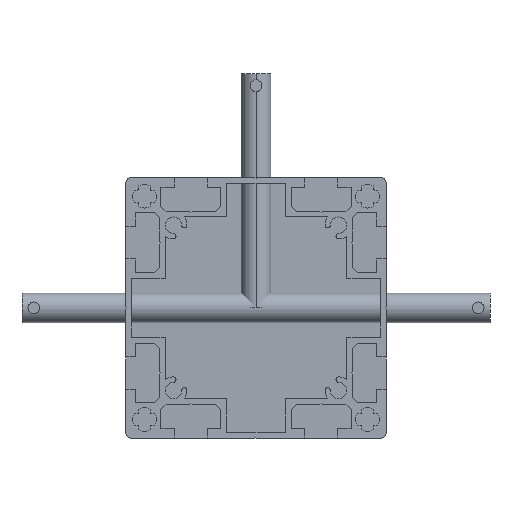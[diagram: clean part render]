
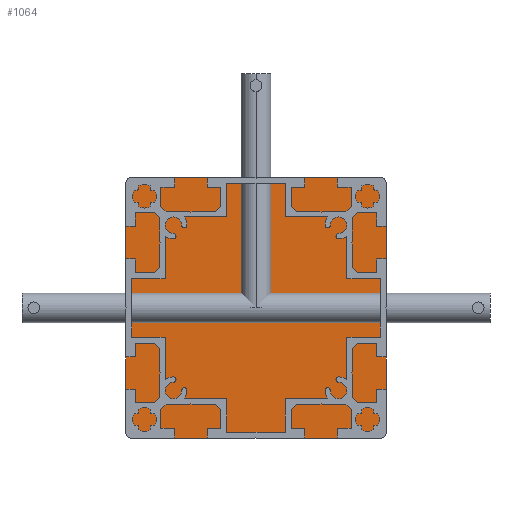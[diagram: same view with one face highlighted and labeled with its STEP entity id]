
A CAD part, left-side view. The second image highlights one B-rep face of the part: STEP entity #1064.
In plain terms, the highlighted planar face has unit normal (-1, 0, 0).
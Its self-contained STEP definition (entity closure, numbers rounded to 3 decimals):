
#149 = VECTOR ( 'NONE', #2908, 1000. ) ;
#448 = CARTESIAN_POINT ( 'NONE',  ( 74., 44., -42. ) ) ;
#596 = EDGE_CURVE ( 'NONE', #10103, #774, #6147, .T. ) ;
#726 = ORIENTED_EDGE ( 'NONE', *, *, #596, .F. ) ;
#774 = VERTEX_POINT ( 'NONE', #5789 ) ;
#853 = CARTESIAN_POINT ( 'NONE',  ( 74., -44., 42. ) ) ;
#884 = EDGE_CURVE ( 'NONE', #11259, #10103, #7340, .T. ) ;
#916 = VECTOR ( 'NONE', #1767, 1000. ) ;
#978 = DIRECTION ( 'NONE',  ( 0., 0., -1. ) ) ;
#1064 = ADVANCED_FACE ( 'NONE', ( #5819 ), #1762, .F. ) ;
#1358 = LINE ( 'NONE', #6904, #149 ) ;
#1435 = CARTESIAN_POINT ( 'NONE',  ( 74., -42., -44. ) ) ;
#1485 = AXIS2_PLACEMENT_3D ( 'NONE', #5858, #1719, #12790 ) ;
#1494 = CIRCLE ( 'NONE', #11756, 2. ) ;
#1514 = DIRECTION ( 'NONE',  ( 0., 0., 1. ) ) ;
#1524 = DIRECTION ( 'NONE',  ( 0., 0., -1. ) ) ;
#1719 = DIRECTION ( 'NONE',  ( 1., 0., 0. ) ) ;
#1762 = PLANE ( 'NONE',  #1485 ) ;
#1767 = DIRECTION ( 'NONE',  ( 0., 1., 0. ) ) ;
#2204 = EDGE_CURVE ( 'NONE', #2647, #4140, #5689, .T. ) ;
#2214 = LINE ( 'NONE', #853, #3166 ) ;
#2647 = VERTEX_POINT ( 'NONE', #3341 ) ;
#2707 = DIRECTION ( 'NONE',  ( 1., 0., 0. ) ) ;
#2908 = DIRECTION ( 'NONE',  ( 0., -1., 0. ) ) ;
#3120 = CARTESIAN_POINT ( 'NONE',  ( 74., -42., 44. ) ) ;
#3166 = VECTOR ( 'NONE', #4632, 1000. ) ;
#3341 = CARTESIAN_POINT ( 'NONE',  ( 74., -44., -42. ) ) ;
#3481 = CARTESIAN_POINT ( 'NONE',  ( 74., -42., 42. ) ) ;
#3530 = AXIS2_PLACEMENT_3D ( 'NONE', #6942, #10953, #978 ) ;
#3785 = EDGE_CURVE ( 'NONE', #774, #12135, #1494, .T. ) ;
#4140 = VERTEX_POINT ( 'NONE', #1435 ) ;
#4291 = ORIENTED_EDGE ( 'NONE', *, *, #2204, .F. ) ;
#4632 = DIRECTION ( 'NONE',  ( 0., 0., -1. ) ) ;
#4747 = VECTOR ( 'NONE', #1514, 1000. ) ;
#4873 = ORIENTED_EDGE ( 'NONE', *, *, #12013, .F. ) ;
#4994 = EDGE_CURVE ( 'NONE', #12135, #6981, #1358, .T. ) ;
#5689 = CIRCLE ( 'NONE', #10066, 2. ) ;
#5763 = ORIENTED_EDGE ( 'NONE', *, *, #884, .F. ) ;
#5789 = CARTESIAN_POINT ( 'NONE',  ( 74., 44., 42. ) ) ;
#5819 = FACE_OUTER_BOUND ( 'NONE', #7602, .T. ) ;
#5858 = CARTESIAN_POINT ( 'NONE',  ( 74., 42., 42. ) ) ;
#5866 = CIRCLE ( 'NONE', #9044, 2. ) ;
#6147 = LINE ( 'NONE', #7440, #4747 ) ;
#6752 = EDGE_CURVE ( 'NONE', #12626, #2647, #2214, .T. ) ;
#6755 = CARTESIAN_POINT ( 'NONE',  ( 74., -42., -42. ) ) ;
#6904 = CARTESIAN_POINT ( 'NONE',  ( 74., 42., 44. ) ) ;
#6942 = CARTESIAN_POINT ( 'NONE',  ( 74., 42., -42. ) ) ;
#6972 = ORIENTED_EDGE ( 'NONE', *, *, #6752, .F. ) ;
#6981 = VERTEX_POINT ( 'NONE', #3120 ) ;
#7020 = CARTESIAN_POINT ( 'NONE',  ( 74., 42., 44. ) ) ;
#7340 = CIRCLE ( 'NONE', #3530, 2. ) ;
#7378 = LINE ( 'NONE', #7656, #916 ) ;
#7440 = CARTESIAN_POINT ( 'NONE',  ( 74., 44., -42. ) ) ;
#7449 = DIRECTION ( 'NONE',  ( 1., 0., 0. ) ) ;
#7602 = EDGE_LOOP ( 'NONE', ( #10092, #726, #5763, #4873, #4291, #6972, #12185, #11483 ) ) ;
#7656 = CARTESIAN_POINT ( 'NONE',  ( 74., -42., -44. ) ) ;
#8357 = DIRECTION ( 'NONE',  ( 1., 0., 0. ) ) ;
#9044 = AXIS2_PLACEMENT_3D ( 'NONE', #3481, #7449, #1524 ) ;
#9300 = DIRECTION ( 'NONE',  ( 0., 0., -1. ) ) ;
#10005 = EDGE_CURVE ( 'NONE', #6981, #12626, #5866, .T. ) ;
#10066 = AXIS2_PLACEMENT_3D ( 'NONE', #6755, #2707, #10633 ) ;
#10092 = ORIENTED_EDGE ( 'NONE', *, *, #3785, .F. ) ;
#10103 = VERTEX_POINT ( 'NONE', #448 ) ;
#10155 = CARTESIAN_POINT ( 'NONE',  ( 74., -44., 42. ) ) ;
#10258 = CARTESIAN_POINT ( 'NONE',  ( 74., 42., 42. ) ) ;
#10512 = CARTESIAN_POINT ( 'NONE',  ( 74., 42., -44. ) ) ;
#10633 = DIRECTION ( 'NONE',  ( 0., 0., -1. ) ) ;
#10953 = DIRECTION ( 'NONE',  ( 1., 0., 0. ) ) ;
#11259 = VERTEX_POINT ( 'NONE', #10512 ) ;
#11483 = ORIENTED_EDGE ( 'NONE', *, *, #4994, .F. ) ;
#11756 = AXIS2_PLACEMENT_3D ( 'NONE', #10258, #8357, #9300 ) ;
#12013 = EDGE_CURVE ( 'NONE', #4140, #11259, #7378, .T. ) ;
#12135 = VERTEX_POINT ( 'NONE', #7020 ) ;
#12185 = ORIENTED_EDGE ( 'NONE', *, *, #10005, .F. ) ;
#12626 = VERTEX_POINT ( 'NONE', #10155 ) ;
#12790 = DIRECTION ( 'NONE',  ( 0., 0., -1. ) ) ;
